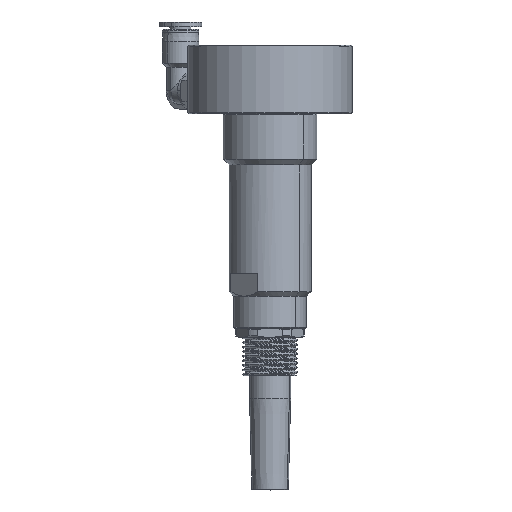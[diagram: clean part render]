
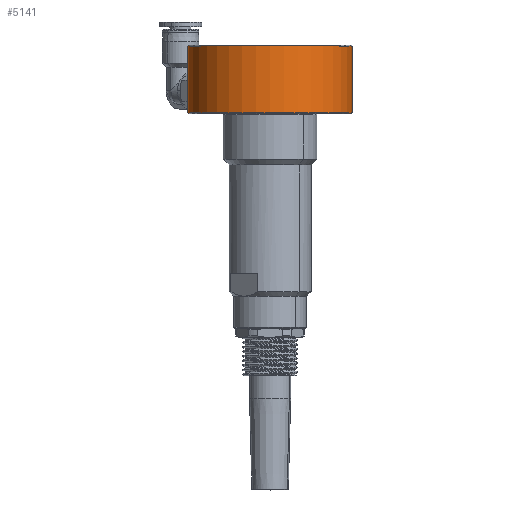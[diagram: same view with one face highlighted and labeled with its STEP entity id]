
A CAD part, top view. The second image highlights one B-rep face of the part: STEP entity #5141.
In plain terms, the highlighted cylindrical face has radius 18 mm (diameter 36 mm), a partial arc.
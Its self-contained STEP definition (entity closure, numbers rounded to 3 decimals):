
#157 = EDGE_LOOP ( 'NONE', ( #28595, #22750, #26901, #14430 ) ) ;
#163 = DIRECTION ( 'NONE',  ( -1., 0., 0. ) ) ;
#1274 = CARTESIAN_POINT ( 'NONE',  ( 44.815, -34.322, 0. ) ) ;
#2046 = EDGE_CURVE ( 'NONE', #9164, #13906, #10579, .T. ) ;
#2232 = DIRECTION ( 'NONE',  ( 0., 1., 0. ) ) ;
#2639 = DIRECTION ( 'NONE',  ( 1., 0., 0. ) ) ;
#3652 = CARTESIAN_POINT ( 'NONE',  ( 8.815, -34.322, 0. ) ) ;
#4976 = DIRECTION ( 'NONE',  ( 0., -1., 0. ) ) ;
#5062 = CARTESIAN_POINT ( 'NONE',  ( 8.815, -19.722, 0. ) ) ;
#5141 = ADVANCED_FACE ( 'NONE', ( #19888 ), #14246, .T. ) ;
#5841 = EDGE_CURVE ( 'NONE', #9164, #6860, #21947, .T. ) ;
#6860 = VERTEX_POINT ( 'NONE', #1274 ) ;
#7581 = LINE ( 'NONE', #20950, #8679 ) ;
#8679 = VECTOR ( 'NONE', #11811, 1000. ) ;
#9142 = DIRECTION ( 'NONE',  ( -1., 0., 0. ) ) ;
#9164 = VERTEX_POINT ( 'NONE', #3652 ) ;
#9695 = AXIS2_PLACEMENT_3D ( 'NONE', #11381, #13622, #163 ) ;
#10579 = LINE ( 'NONE', #17990, #22205 ) ;
#11381 = CARTESIAN_POINT ( 'NONE',  ( 26.815, -34.322, 0. ) ) ;
#11437 = EDGE_CURVE ( 'NONE', #6860, #24468, #7581, .T. ) ;
#11811 = DIRECTION ( 'NONE',  ( 0., 1., 0. ) ) ;
#13446 = CIRCLE ( 'NONE', #26087, 18. ) ;
#13622 = DIRECTION ( 'NONE',  ( 0., 1., 0. ) ) ;
#13906 = VERTEX_POINT ( 'NONE', #5062 ) ;
#13982 = CARTESIAN_POINT ( 'NONE',  ( 26.815, -19.722, 0. ) ) ;
#14246 = CYLINDRICAL_SURFACE ( 'NONE', #20438, 18. ) ;
#14430 = ORIENTED_EDGE ( 'NONE', *, *, #2046, .F. ) ;
#14602 = CARTESIAN_POINT ( 'NONE',  ( 44.815, -19.722, 0. ) ) ;
#15744 = CARTESIAN_POINT ( 'NONE',  ( 26.815, -19.522, 0. ) ) ;
#17990 = CARTESIAN_POINT ( 'NONE',  ( 8.815, -19.522, 0. ) ) ;
#19403 = EDGE_CURVE ( 'NONE', #24468, #13906, #13446, .T. ) ;
#19888 = FACE_OUTER_BOUND ( 'NONE', #157, .T. ) ;
#20438 = AXIS2_PLACEMENT_3D ( 'NONE', #15744, #2232, #9142 ) ;
#20950 = CARTESIAN_POINT ( 'NONE',  ( 44.815, -19.522, 0. ) ) ;
#21947 = CIRCLE ( 'NONE', #9695, 18. ) ;
#22205 = VECTOR ( 'NONE', #24954, 1000. ) ;
#22750 = ORIENTED_EDGE ( 'NONE', *, *, #11437, .T. ) ;
#24468 = VERTEX_POINT ( 'NONE', #14602 ) ;
#24954 = DIRECTION ( 'NONE',  ( 0., 1., 0. ) ) ;
#26087 = AXIS2_PLACEMENT_3D ( 'NONE', #13982, #4976, #2639 ) ;
#26901 = ORIENTED_EDGE ( 'NONE', *, *, #19403, .T. ) ;
#28595 = ORIENTED_EDGE ( 'NONE', *, *, #5841, .T. ) ;
